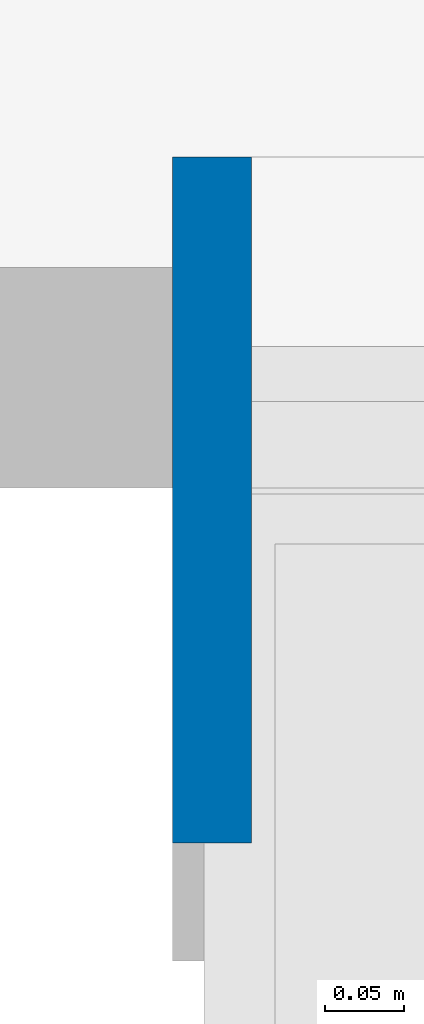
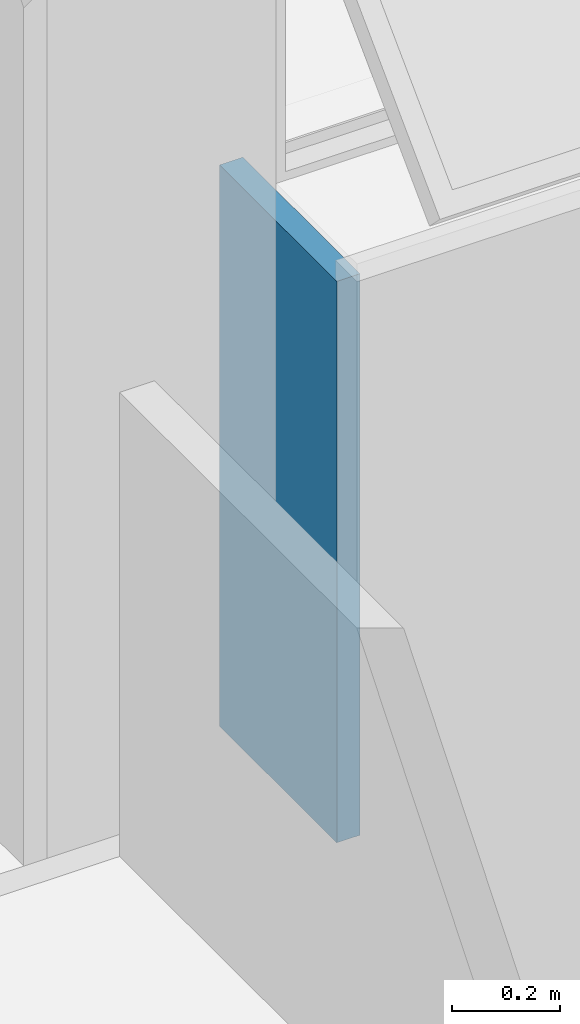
# One storey, part 21 of 37: 1 wall.
"""IFC2X3 building model written with IfcOpenShell, lengths in millimetres."""

from ifc_helpers import new_model, entity, si_unit, converted_unit, derived_unit, money_unit, direction, frame, origin_with_axes, place, context, subcontext, project, spatial, polyline, outline, extrude, material, layer, layer_set, layer_usage, type_object, element, save


model = new_model("IFC2X3")

# Units and contexts
model_context = context("Model", 3, precision=0.01, world=origin_with_axes(), true_north=direction((0.0, 1.0)))
body_context = subcontext(model_context, "Body", "Model", "MODEL_VIEW")
ifc_project = project(units=[si_unit("LENGTHUNIT", "METRE", prefix="MILLI"), si_unit("AREAUNIT", "SQUARE_METRE"), si_unit("VOLUMEUNIT", "CUBIC_METRE"), converted_unit("PLANEANGLEUNIT", "DEGREE", entity("IfcPlaneAngleMeasure", 0.0174532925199), si_unit("PLANEANGLEUNIT", "RADIAN"), dimensions=[0, 0, 0, 0, 0, 0, 0]), money_unit("USD"), converted_unit("TIMEUNIT", "Year", entity("IfcTimeMeasure", 31556926.0), si_unit("TIMEUNIT", "SECOND"), dimensions=[0, 0, 1, 0, 0, 0, 0]), si_unit("MASSUNIT", "GRAM", prefix="KILO"), si_unit("THERMODYNAMICTEMPERATUREUNIT", "DEGREE_CELSIUS"), si_unit("LUMINOUSINTENSITYUNIT", "LUMEN"), si_unit("ENERGYUNIT", "JOULE", prefix="MEGA"), derived_unit("THERMALCONDUCTANCEUNIT", [(si_unit("POWERUNIT", "WATT"), 1), (si_unit("LENGTHUNIT", "METRE"), -1), (si_unit("THERMODYNAMICTEMPERATUREUNIT", "KELVIN"), -1)]), derived_unit("SPECIFICHEATCAPACITYUNIT", [(si_unit("ENERGYUNIT", "JOULE"), 1), (si_unit("MASSUNIT", "GRAM", prefix="KILO"), -1), (si_unit("THERMODYNAMICTEMPERATUREUNIT", "KELVIN"), -1)]), derived_unit("MASSDENSITYUNIT", [(si_unit("MASSUNIT", "GRAM", prefix="KILO"), 1), (si_unit("VOLUMEUNIT", "CUBIC_METRE"), -1)])], contexts=[model_context])

# Site, building, storey
site_placement = place(None, origin_with_axes())
site = spatial("IfcSite", under=ifc_project, at=site_placement, Name="Local", CompositionType="ELEMENT")
building_placement = place(site_placement, origin_with_axes())
building = spatial("IfcBuilding", under=site, at=building_placement, Name="Construção", CompositionType="ELEMENT")
storey_placement = place(building_placement, frame((0.0, 0.0, 5300.0), z_axis=(0.0, 0.0, 1.0), x_axis=(1.0, 0.0, 0.0)))
storey = spatial("IfcBuildingStorey", under=building, at=storey_placement, Name="Terceiro Pavimento", CompositionType="ELEMENT", Elevation=5300.0)

# Wall
ifc_material = material(Name="Concreto Armado Moldado in Loco - Estrutural")
ifc_layer = layer(ifc_material, 50.0, ventilated="UNKNOWN")
ifc_layer_set = layer_set([ifc_layer], Name="Concreto Armado Moldado in Loco - Estrutural 50")
ifc_layer_usage = layer_usage(ifc_layer_set, "AXIS2", "POSITIVE", -50.0)
wall_type = type_object("IfcWallType", Name="Concreto Armado Moldado in Loco - Estrutural 50", PredefinedType="NOTDEFINED")
wall_placement = place(storey_placement, frame((8920.0, 18105.0000013, 0.0), z_axis=(0.0, 0.0, 1.0), x_axis=(0.0, -1.0, 0.0)))
element("IfcWallStandardCase", 1, at=wall_placement, inside=storey, type_object=wall_type, material=ifc_layer_usage, Name="APTO12-PAREDE-016", context=body_context, shape_type="SweptSolid", body=[
    extrude(outline(polyline([(0.0, -50.0), (435.0, -50.0), (435.0, 0.0), (0.0, 0.0), (0.0, -50.0)])), origin_with_axes(), (0.0, 0.0, 1.0), 1270.0),
])

save(model, "model.ifc")
